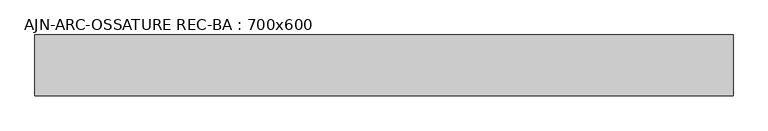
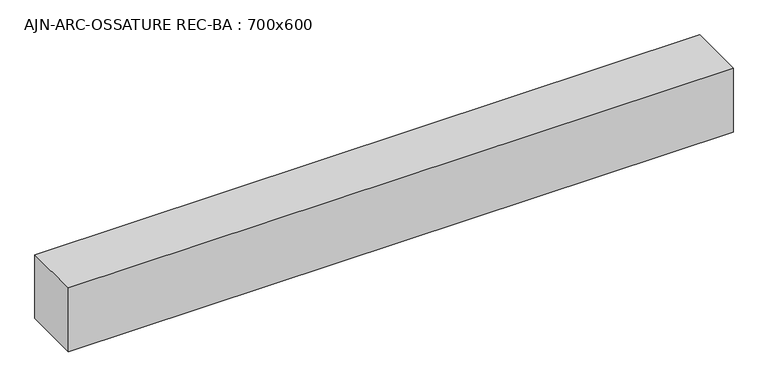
"""IFC4 building model written with IfcOpenShell, lengths in millimetres: beam geometry, AJN-ARC-OSSATURE REC-BA : 700x600."""

from ifc_helpers import new_model, si_unit, frame, origin, place, context, project, spatial, polyline, outline, extrude, source, transform, mapped, element, save


def ajn_arc_ossature_rec_ba_700x600_935a49c2(model_context):
    return source(origin(), model_context, "Body", "SweptSolid", [
        extrude(outline(polyline([(3600.0, 300.0), (3600.0, -300.0), (-3287.3, -300.0), (-3287.3, 300.0), (3600.0, 300.0)])), frame((0.0, 0.0, -350.0), z_axis=(0.0, 0.0, 1.0), x_axis=(1.0, 0.0, 0.0)), (0.0, 0.0, 1.0), 700.0),
    ])


if __name__ == "__main__":
    model = new_model("IFC4")
    model_context = context("Model", 3, world=origin())
    ifc_project = project(units=[si_unit("LENGTHUNIT", "METRE", prefix="MILLI")], contexts=[model_context])
    site = spatial("IfcSite", under=ifc_project)
    building = spatial("IfcBuilding", under=site)
    placement = place(None, origin())
    ajn_arc_ossature_rec_ba_700x600_shape = ajn_arc_ossature_rec_ba_700x600_935a49c2(model_context)
    element("IfcBeam", 1, ObjectType="AJN-ARC-OSSATURE REC-BA : 700x600", at=placement, inside=building, context=model_context, shape_type="MappedRepresentation", body=[
        mapped(ajn_arc_ossature_rec_ba_700x600_shape, transform((0.0, 0.0, 0.0), x_axis=(1.0, 0.0, 0.0), y_axis=(0.0, 1.0, 0.0), z_axis=(0.0, 0.0, 1.0))),
    ])
    save(model, "model.ifc")
